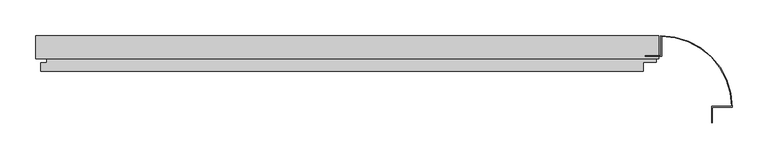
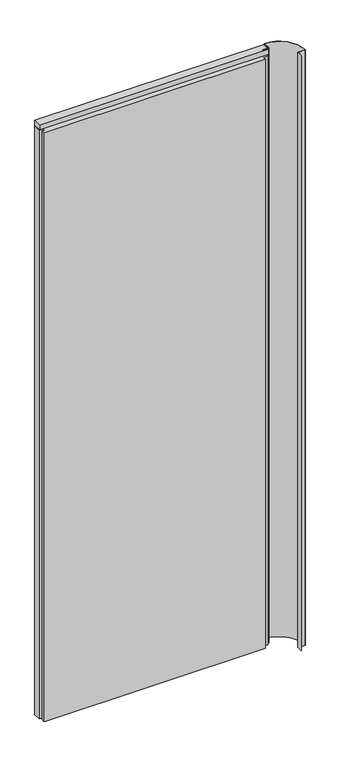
"""IFC4 building model written with IfcOpenShell, lengths in millimetres: plate geometry, Trimo_Qbiss Screen_Normal Panel-VERTICAL : HR - FB-F."""

from ifc_helpers import new_model, si_unit, point, frame, frame_2d, origin, place, context, project, spatial, polyline, circle_curve, trimmed, segment, composite_curve, outline, extrude, source, transform, mapped, element, save


def plate_6ee5b050(model_context):
    return source(origin(), model_context, "Body", "SweptSolid", [
        extrude(outline(polyline([(448.0, 97.0), (429.0, 97.0), (429.0, 126.0), (448.0, 126.0), (448.0, 97.0)])), frame((0.0, 0.0, 12.5), z_axis=(0.0, 0.0, 1.0), x_axis=(1.0, 0.0, 0.0)), (0.0, 0.0, 1.0), 2375.0),
        extrude(outline(polyline([(-425.0, 93.9), (-425.0, 126.0), (448.0, 126.0), (448.0, 93.9), (-425.0, 93.9)])), frame((0.0, 0.0, 2390.5), z_axis=(0.0, 0.0, 1.0), x_axis=(1.0, 0.0, 0.0)), (0.0, 0.0, 1.0), 19.0),
        extrude(outline(polyline([(426.0, 97.0), (444.5, 97.0), (444.5, 89.0), (426.0, 89.0), (426.0, 76.0), (-418.0, 76.0), (-418.0, 88.0), (-409.5, 88.0), (-409.5, 98.0), (-425.0, 98.0), (-425.0, 126.0), (426.0, 126.0), (426.0, 97.0)])), frame((0.0, 0.0, 12.5), z_axis=(0.0, 0.0, 1.0), x_axis=(1.0, 0.0, 0.0)), (0.0, 0.0, 1.0), 2375.0),
        extrude(outline(composite_curve([segment(polyline([(451.0, 97.8), (451.0, 126.0)]), True, "CONTINUOUS"), segment(trimmed(circle_curve(frame_2d((451.0, 26.0)), 100.0), [point((451.0, 126.0))], [point((551.0, 26.0))], False, "CARTESIAN"), True, "CONTINUOUS"), segment(polyline([(551.0, 26.0), (522.8, 26.0), (522.8, 4.0), (522.0, 4.0), (522.0, 26.8), (550.1967741, 26.8)]), True, "CONTINUOUS"), segment(trimmed(circle_curve(frame_2d((451.0, 26.0)), 99.2), [point((550.1967741, 26.8))], [point((451.8, 125.1967741))], True, "CARTESIAN"), True, "CONTINUOUS"), segment(polyline([(451.8, 125.1967741), (451.8, 97.0), (429.0, 97.0), (429.0, 97.8), (451.0, 97.8)]), True, "CONTINUOUS")], self_intersect=False)), frame((0.0, 0.0, 12.5), z_axis=(0.0, 0.0, 1.0), x_axis=(1.0, 0.0, 0.0)), (0.0, 0.0, 1.0), 2400.0),
    ])


if __name__ == "__main__":
    model = new_model("IFC4")
    model_context = context("Model", 3, world=origin())
    ifc_project = project(units=[si_unit("LENGTHUNIT", "METRE", prefix="MILLI")], contexts=[model_context])
    site = spatial("IfcSite", under=ifc_project)
    building = spatial("IfcBuilding", under=site)
    placement = place(None, origin())
    plate_shape = plate_6ee5b050(model_context)
    element("IfcPlate", 1, ObjectType="Trimo_Qbiss Screen_Normal Panel-VERTICAL : HR - FB-F", at=placement, inside=building, context=model_context, shape_type="MappedRepresentation", body=[
        mapped(plate_shape, transform((0.0, 0.0, 0.0), x_axis=(1.0, 0.0, 0.0), y_axis=(0.0, 1.0, 0.0), z_axis=(0.0, 0.0, 1.0))),
    ])
    save(model, "model.ifc")
